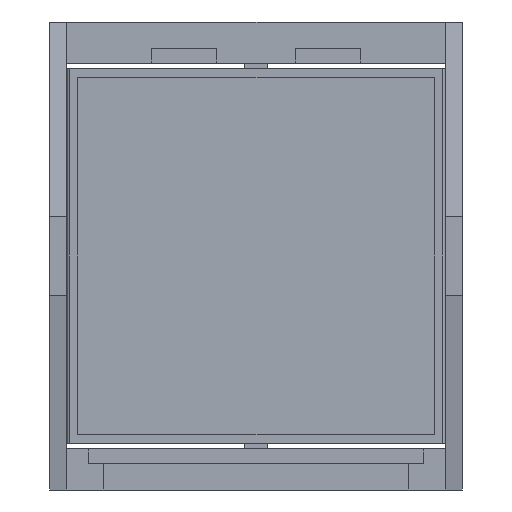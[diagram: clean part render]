
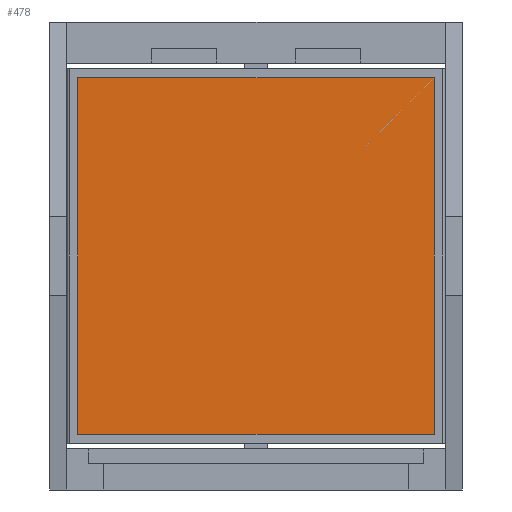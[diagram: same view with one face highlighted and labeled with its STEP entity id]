
A CAD part, front view. The second image highlights one B-rep face of the part: STEP entity #478.
In plain terms, the highlighted planar face has unit normal (0, -1, 0).
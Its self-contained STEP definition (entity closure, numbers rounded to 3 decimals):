
#67 = ORIENTED_EDGE ( 'NONE', *, *, #304, .T. ) ;
#304 = EDGE_CURVE ( 'NONE', #1831, #2657, #4551, .T. ) ;
#398 = CARTESIAN_POINT ( 'NONE',  ( 14.413, -6.233, 18.695 ) ) ;
#478 = ADVANCED_FACE ( 'NONE', ( #7733 ), #1851, .T. ) ;
#565 = AXIS2_PLACEMENT_3D ( 'NONE', #5012, #3860, #7772 ) ;
#606 = ORIENTED_EDGE ( 'NONE', *, *, #7813, .T. ) ;
#1616 = ORIENTED_EDGE ( 'NONE', *, *, #7697, .T. ) ;
#1831 = VERTEX_POINT ( 'NONE', #398 ) ;
#1848 = CARTESIAN_POINT ( 'NONE',  ( -14.587, -6.233, -10.305 ) ) ;
#1851 = PLANE ( 'NONE',  #565 ) ;
#1871 = CARTESIAN_POINT ( 'NONE',  ( 14.413, -6.233, 18.695 ) ) ;
#1898 = DIRECTION ( 'NONE',  ( 1., 0., 0. ) ) ;
#1985 = DIRECTION ( 'NONE',  ( 0., 0., -1. ) ) ;
#2166 = EDGE_LOOP ( 'NONE', ( #1616, #67, #606, #6383 ) ) ;
#2531 = LINE ( 'NONE', #1848, #7632 ) ;
#2559 = DIRECTION ( 'NONE',  ( -1., 0., 0. ) ) ;
#2657 = VERTEX_POINT ( 'NONE', #4698 ) ;
#2967 = CARTESIAN_POINT ( 'NONE',  ( -14.587, -6.233, -10.305 ) ) ;
#3337 = LINE ( 'NONE', #4240, #5354 ) ;
#3860 = DIRECTION ( 'NONE',  ( 0., -1., 0. ) ) ;
#3976 = VECTOR ( 'NONE', #1898, 1000. ) ;
#4118 = LINE ( 'NONE', #5445, #3976 ) ;
#4240 = CARTESIAN_POINT ( 'NONE',  ( 14.413, -6.233, -10.305 ) ) ;
#4551 = LINE ( 'NONE', #1871, #6668 ) ;
#4698 = CARTESIAN_POINT ( 'NONE',  ( -14.587, -6.233, 18.695 ) ) ;
#5012 = CARTESIAN_POINT ( 'NONE',  ( 14.413, -6.233, 18.695 ) ) ;
#5354 = VECTOR ( 'NONE', #7973, 1000. ) ;
#5445 = CARTESIAN_POINT ( 'NONE',  ( 14.413, -6.233, -10.305 ) ) ;
#6383 = ORIENTED_EDGE ( 'NONE', *, *, #7078, .T. ) ;
#6668 = VECTOR ( 'NONE', #2559, 1000. ) ;
#7078 = EDGE_CURVE ( 'NONE', #8834, #7496, #4118, .T. ) ;
#7423 = CARTESIAN_POINT ( 'NONE',  ( 14.413, -6.233, -10.305 ) ) ;
#7496 = VERTEX_POINT ( 'NONE', #7423 ) ;
#7632 = VECTOR ( 'NONE', #1985, 1000. ) ;
#7697 = EDGE_CURVE ( 'NONE', #7496, #1831, #3337, .T. ) ;
#7733 = FACE_OUTER_BOUND ( 'NONE', #2166, .T. ) ;
#7772 = DIRECTION ( 'NONE',  ( 0., 0., 1. ) ) ;
#7813 = EDGE_CURVE ( 'NONE', #2657, #8834, #2531, .T. ) ;
#7973 = DIRECTION ( 'NONE',  ( 0., 0., 1. ) ) ;
#8834 = VERTEX_POINT ( 'NONE', #2967 ) ;
